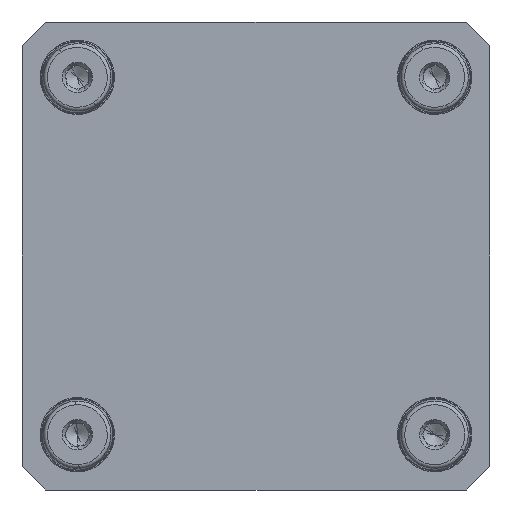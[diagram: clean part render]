
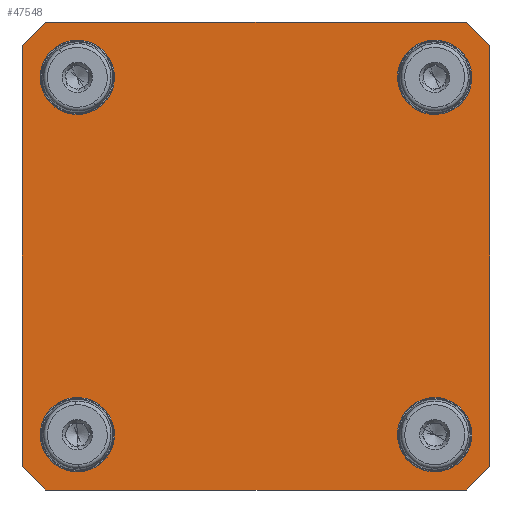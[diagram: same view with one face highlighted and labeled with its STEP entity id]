
A CAD part, front view. The second image highlights one B-rep face of the part: STEP entity #47548.
In plain terms, the highlighted planar face has unit normal (0, -1, 0).
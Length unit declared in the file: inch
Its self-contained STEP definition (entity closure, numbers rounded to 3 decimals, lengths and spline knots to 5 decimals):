
#1594 = ORIENTED_EDGE ( 'NONE', *, *, #4267, .F. ) ;
#1908 = DIRECTION ( 'NONE',  ( 0., 0., 1. ) ) ;
#2629 = DIRECTION ( 'NONE',  ( 0., -1., 0. ) ) ;
#2950 = DIRECTION ( 'NONE',  ( 0., 0., 1. ) ) ;
#3340 = DIRECTION ( 'NONE',  ( 0., -1., 0. ) ) ;
#3510 = DIRECTION ( 'NONE',  ( 0., 0., 1. ) ) ;
#3816 = VERTEX_POINT ( 'NONE', #25229 ) ;
#4267 = EDGE_CURVE ( 'NONE', #3816, #20470, #21200, .T. ) ;
#4550 = DIRECTION ( 'NONE',  ( -1., 0., 0. ) ) ;
#4558 = DIRECTION ( 'NONE',  ( 0., 0., -1. ) ) ;
#5333 = CARTESIAN_POINT ( 'NONE',  ( 1.88976, 0., 1.88976 ) ) ;
#5548 = ORIENTED_EDGE ( 'NONE', *, *, #75518, .F. ) ;
#5618 = CARTESIAN_POINT ( 'NONE',  ( -2.225, 0., -2.475 ) ) ;
#6255 = AXIS2_PLACEMENT_3D ( 'NONE', #38327, #3340, #49157 ) ;
#7768 = CARTESIAN_POINT ( 'NONE',  ( 2.475, 0., 2.225 ) ) ;
#8440 = ORIENTED_EDGE ( 'NONE', *, *, #32589, .T. ) ;
#9405 = LINE ( 'NONE', #37496, #37812 ) ;
#10530 = LINE ( 'NONE', #31855, #64429 ) ;
#10800 = VERTEX_POINT ( 'NONE', #66397 ) ;
#11468 = EDGE_CURVE ( 'NONE', #74260, #20613, #18099, .T. ) ;
#12089 = EDGE_CURVE ( 'NONE', #74260, #63271, #24527, .T. ) ;
#12580 = VECTOR ( 'NONE', #28623, 39.37008 ) ;
#12683 = EDGE_CURVE ( 'NONE', #30556, #47016, #42774, .T. ) ;
#13794 = DIRECTION ( 'NONE',  ( -0.707, 0., 0.707 ) ) ;
#14361 = CIRCLE ( 'NONE', #50601, 0.31495 ) ;
#14709 = DIRECTION ( 'NONE',  ( 0., 1., 0. ) ) ;
#14773 = ORIENTED_EDGE ( 'NONE', *, *, #67778, .F. ) ;
#14814 = CARTESIAN_POINT ( 'NONE',  ( 2.225, 0., 2.475 ) ) ;
#17521 = CARTESIAN_POINT ( 'NONE',  ( -1.88976, 0., 2.20471 ) ) ;
#18099 = LINE ( 'NONE', #32223, #12580 ) ;
#19120 = ORIENTED_EDGE ( 'NONE', *, *, #48082, .F. ) ;
#19306 = EDGE_CURVE ( 'NONE', #62258, #72012, #28933, .T. ) ;
#19908 = VERTEX_POINT ( 'NONE', #64295 ) ;
#20091 = CARTESIAN_POINT ( 'NONE',  ( 2.475, 0., -2.475 ) ) ;
#20470 = VERTEX_POINT ( 'NONE', #73340 ) ;
#20613 = VERTEX_POINT ( 'NONE', #63376 ) ;
#20654 = FACE_OUTER_BOUND ( 'NONE', #30800, .T. ) ;
#21200 = CIRCLE ( 'NONE', #35305, 0.31495 ) ;
#21274 = AXIS2_PLACEMENT_3D ( 'NONE', #61246, #72708, #1908 ) ;
#21370 = ORIENTED_EDGE ( 'NONE', *, *, #24421, .F. ) ;
#22626 = ORIENTED_EDGE ( 'NONE', *, *, #65853, .F. ) ;
#23874 = AXIS2_PLACEMENT_3D ( 'NONE', #63875, #40588, #4558 ) ;
#24151 = VECTOR ( 'NONE', #66917, 39.37008 ) ;
#24421 = EDGE_CURVE ( 'NONE', #20470, #3816, #14361, .T. ) ;
#24527 = LINE ( 'NONE', #28606, #67479 ) ;
#25099 = CARTESIAN_POINT ( 'NONE',  ( 2.475, 0., 2.225 ) ) ;
#25229 = CARTESIAN_POINT ( 'NONE',  ( 1.88976, 0., -1.57481 ) ) ;
#25916 = LINE ( 'NONE', #69692, #46962 ) ;
#26258 = ORIENTED_EDGE ( 'NONE', *, *, #19306, .F. ) ;
#26510 = PLANE ( 'NONE',  #38057 ) ;
#27402 = CIRCLE ( 'NONE', #72475, 0.31495 ) ;
#28606 = CARTESIAN_POINT ( 'NONE',  ( -2.475, 0., -2.475 ) ) ;
#28623 = DIRECTION ( 'NONE',  ( 0.707, 0., 0.707 ) ) ;
#28933 = CIRCLE ( 'NONE', #53720, 0.31495 ) ;
#28965 = EDGE_LOOP ( 'NONE', ( #36614, #29118 ) ) ;
#29118 = ORIENTED_EDGE ( 'NONE', *, *, #29298, .F. ) ;
#29298 = EDGE_CURVE ( 'NONE', #41601, #57336, #27402, .T. ) ;
#29846 = EDGE_LOOP ( 'NONE', ( #14773, #19120 ) ) ;
#30411 = VERTEX_POINT ( 'NONE', #34405 ) ;
#30556 = VERTEX_POINT ( 'NONE', #7768 ) ;
#30800 = EDGE_LOOP ( 'NONE', ( #54684, #56441, #37512, #50123, #5548, #58666, #22626, #8440 ) ) ;
#31855 = CARTESIAN_POINT ( 'NONE',  ( -2.475, 0., -2.475 ) ) ;
#32223 = CARTESIAN_POINT ( 'NONE',  ( 2.225, 0., -2.475 ) ) ;
#32463 = CARTESIAN_POINT ( 'NONE',  ( 2.225, 0., -2.475 ) ) ;
#32494 = EDGE_CURVE ( 'NONE', #19908, #30411, #39679, .T. ) ;
#32589 = EDGE_CURVE ( 'NONE', #50335, #63271, #25916, .T. ) ;
#32768 = CARTESIAN_POINT ( 'NONE',  ( -2.475, 0., -2.225 ) ) ;
#32885 = DIRECTION ( 'NONE',  ( 0., -1., 0. ) ) ;
#32887 = CARTESIAN_POINT ( 'NONE',  ( -1.88976, 0., 1.88976 ) ) ;
#34405 = CARTESIAN_POINT ( 'NONE',  ( -2.475, 0., 2.225 ) ) ;
#35154 = DIRECTION ( 'NONE',  ( 0.707, 0., -0.707 ) ) ;
#35277 = FACE_BOUND ( 'NONE', #28965, .T. ) ;
#35305 = AXIS2_PLACEMENT_3D ( 'NONE', #72668, #2629, #49206 ) ;
#36614 = ORIENTED_EDGE ( 'NONE', *, *, #47283, .F. ) ;
#37496 = CARTESIAN_POINT ( 'NONE',  ( -2.475, 0., 2.475 ) ) ;
#37512 = ORIENTED_EDGE ( 'NONE', *, *, #45654, .F. ) ;
#37812 = VECTOR ( 'NONE', #61085, 39.37008 ) ;
#38036 = CIRCLE ( 'NONE', #23874, 0.31495 ) ;
#38057 = AXIS2_PLACEMENT_3D ( 'NONE', #55461, #14709, #43633 ) ;
#38327 = CARTESIAN_POINT ( 'NONE',  ( 1.88976, 0., 1.88976 ) ) ;
#38743 = DIRECTION ( 'NONE',  ( 0., 0., -1. ) ) ;
#39679 = LINE ( 'NONE', #44191, #24151 ) ;
#40113 = VECTOR ( 'NONE', #49483, 39.37008 ) ;
#40588 = DIRECTION ( 'NONE',  ( 0., -1., 0. ) ) ;
#41586 = CIRCLE ( 'NONE', #73807, 0.31495 ) ;
#41601 = VERTEX_POINT ( 'NONE', #17521 ) ;
#42774 = LINE ( 'NONE', #25099, #72045 ) ;
#42907 = LINE ( 'NONE', #20091, #40113 ) ;
#43382 = VERTEX_POINT ( 'NONE', #64091 ) ;
#43633 = DIRECTION ( 'NONE',  ( 0., 0., 1. ) ) ;
#44189 = DIRECTION ( 'NONE',  ( 0., -1., 0. ) ) ;
#44191 = CARTESIAN_POINT ( 'NONE',  ( -2.225, 0., 2.475 ) ) ;
#45654 = EDGE_CURVE ( 'NONE', #30556, #20613, #42907, .T. ) ;
#46277 = DIRECTION ( 'NONE',  ( 0., 0., 1. ) ) ;
#46962 = VECTOR ( 'NONE', #35154, 39.37008 ) ;
#47016 = VERTEX_POINT ( 'NONE', #14814 ) ;
#47283 = EDGE_CURVE ( 'NONE', #57336, #41601, #38036, .T. ) ;
#47548 = ADVANCED_FACE ( 'NONE', ( #48977, #48079, #66312, #35277, #20654 ), #26510, .F. ) ;
#48079 = FACE_BOUND ( 'NONE', #29846, .T. ) ;
#48082 = EDGE_CURVE ( 'NONE', #43382, #10800, #41586, .T. ) ;
#48523 = EDGE_CURVE ( 'NONE', #72012, #62258, #68910, .T. ) ;
#48977 = FACE_BOUND ( 'NONE', #66188, .T. ) ;
#49157 = DIRECTION ( 'NONE',  ( 0., 0., 1. ) ) ;
#49206 = DIRECTION ( 'NONE',  ( 0., 0., -1. ) ) ;
#49483 = DIRECTION ( 'NONE',  ( 0., 0., -1. ) ) ;
#50123 = ORIENTED_EDGE ( 'NONE', *, *, #12683, .T. ) ;
#50335 = VERTEX_POINT ( 'NONE', #32768 ) ;
#50601 = AXIS2_PLACEMENT_3D ( 'NONE', #61618, #73323, #54752 ) ;
#53567 = ORIENTED_EDGE ( 'NONE', *, *, #48523, .F. ) ;
#53720 = AXIS2_PLACEMENT_3D ( 'NONE', #5333, #57543, #46277 ) ;
#54684 = ORIENTED_EDGE ( 'NONE', *, *, #12089, .F. ) ;
#54752 = DIRECTION ( 'NONE',  ( 0., 0., -1. ) ) ;
#55461 = CARTESIAN_POINT ( 'NONE',  ( 0., 0., 0. ) ) ;
#56441 = ORIENTED_EDGE ( 'NONE', *, *, #11468, .T. ) ;
#56989 = CARTESIAN_POINT ( 'NONE',  ( -1.88976, 0., -1.88976 ) ) ;
#57336 = VERTEX_POINT ( 'NONE', #63641 ) ;
#57543 = DIRECTION ( 'NONE',  ( 0., -1., 0. ) ) ;
#58163 = EDGE_LOOP ( 'NONE', ( #21370, #1594 ) ) ;
#58666 = ORIENTED_EDGE ( 'NONE', *, *, #32494, .T. ) ;
#61085 = DIRECTION ( 'NONE',  ( 1., 0., 0. ) ) ;
#61246 = CARTESIAN_POINT ( 'NONE',  ( -1.88976, 0., -1.88976 ) ) ;
#61618 = CARTESIAN_POINT ( 'NONE',  ( 1.88976, 0., -1.88976 ) ) ;
#62258 = VERTEX_POINT ( 'NONE', #63010 ) ;
#63010 = CARTESIAN_POINT ( 'NONE',  ( 1.88976, 0., 1.57481 ) ) ;
#63271 = VERTEX_POINT ( 'NONE', #5618 ) ;
#63376 = CARTESIAN_POINT ( 'NONE',  ( 2.475, 0., -2.225 ) ) ;
#63641 = CARTESIAN_POINT ( 'NONE',  ( -1.88976, 0., 1.57481 ) ) ;
#63875 = CARTESIAN_POINT ( 'NONE',  ( -1.88976, 0., 1.88976 ) ) ;
#64091 = CARTESIAN_POINT ( 'NONE',  ( -1.88976, 0., -1.57481 ) ) ;
#64295 = CARTESIAN_POINT ( 'NONE',  ( -2.225, 0., 2.475 ) ) ;
#64429 = VECTOR ( 'NONE', #2950, 39.37008 ) ;
#65853 = EDGE_CURVE ( 'NONE', #50335, #30411, #10530, .T. ) ;
#66188 = EDGE_LOOP ( 'NONE', ( #26258, #53567 ) ) ;
#66312 = FACE_BOUND ( 'NONE', #58163, .T. ) ;
#66397 = CARTESIAN_POINT ( 'NONE',  ( -1.88976, 0., -2.20471 ) ) ;
#66917 = DIRECTION ( 'NONE',  ( -0.707, 0., -0.707 ) ) ;
#67479 = VECTOR ( 'NONE', #4550, 39.37008 ) ;
#67778 = EDGE_CURVE ( 'NONE', #10800, #43382, #68456, .T. ) ;
#68456 = CIRCLE ( 'NONE', #21274, 0.31495 ) ;
#68910 = CIRCLE ( 'NONE', #6255, 0.31495 ) ;
#69692 = CARTESIAN_POINT ( 'NONE',  ( -2.475, 0., -2.225 ) ) ;
#72012 = VERTEX_POINT ( 'NONE', #75707 ) ;
#72045 = VECTOR ( 'NONE', #13794, 39.37008 ) ;
#72475 = AXIS2_PLACEMENT_3D ( 'NONE', #32887, #44189, #38743 ) ;
#72668 = CARTESIAN_POINT ( 'NONE',  ( 1.88976, 0., -1.88976 ) ) ;
#72708 = DIRECTION ( 'NONE',  ( 0., -1., 0. ) ) ;
#73323 = DIRECTION ( 'NONE',  ( 0., -1., 0. ) ) ;
#73340 = CARTESIAN_POINT ( 'NONE',  ( 1.88976, 0., -2.20471 ) ) ;
#73807 = AXIS2_PLACEMENT_3D ( 'NONE', #56989, #32885, #3510 ) ;
#74260 = VERTEX_POINT ( 'NONE', #32463 ) ;
#75518 = EDGE_CURVE ( 'NONE', #19908, #47016, #9405, .T. ) ;
#75707 = CARTESIAN_POINT ( 'NONE',  ( 1.88976, 0., 2.20471 ) ) ;
